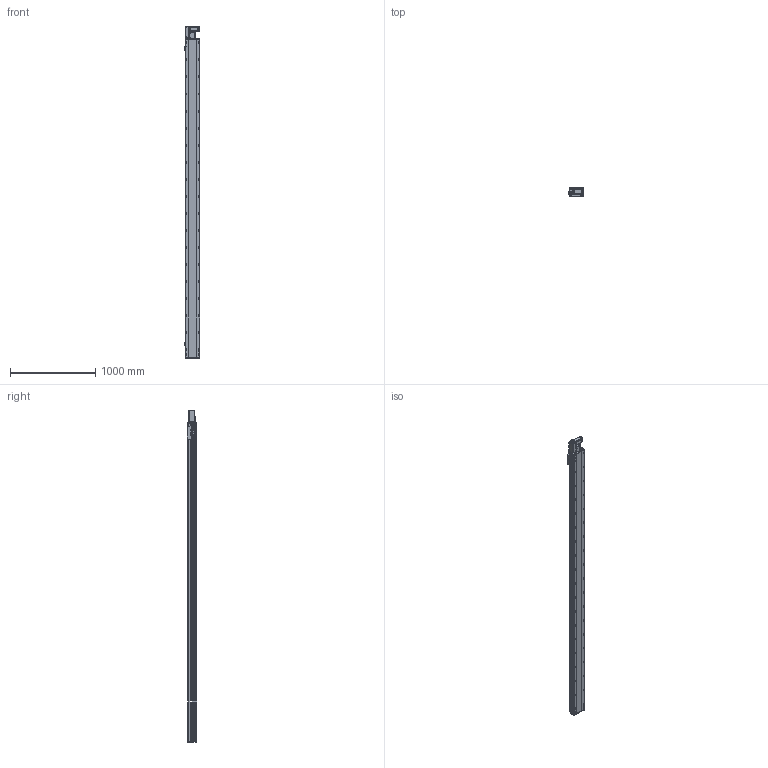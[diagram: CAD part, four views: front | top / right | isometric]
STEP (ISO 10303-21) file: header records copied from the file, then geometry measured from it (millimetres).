
FILE_DESCRIPTION (( 'STEP AP214' ), '1' );
FILE_NAME ('RTB17S-XX-3450-L-M40-C4.STEP', '2025-12-11T06:08:29', ( '' ), ( '' ), 'SwSTEP 2.0', 'SolidWorks 2018', '' );
FILE_SCHEMA (( 'AUTOMOTIVE_DESIGN' ));
Length unit declared in the file: millimetre
Products named in the file (14): OMRON EE-SX672 传感器^RTB17S-XX-XX-L-M40-C4; RTB17S-L-々湍釱蚾饜-400W^RTB17S-XX-XX-L-M40-C4; RTB17S-XX-3450-L-M40-C4; RMP17S-L-014-T20--々湍釱^RTB17S-L-々湍釱蚾饜-400W_RTB17S-XX-XX-L-M40-C4; RTB17S-L-004佪裝蹟譫蟀諉釱^RTB17S-XX-XX-L-M40-C4; RTB17S-L-007奻裔^RTB17S-XX-XX-L-M40-C4; RTB17-R-011菁釱^RTB17S-XX-XX-L-M40-C4; RTB17S-L-001耜醱啣^RTB17S-XX-XX-L-M40-C4; RTB14-L-005P--轴承塑胶压盖^RTB17S-L-皮带座装配-400W_RTB17S-XX-XX-L-M40-C4; 400W侜督萇儂^RTB17S-XX-XX-L-M40-C4; RTB14-L-008-M20--萇儂啣^RTB17S-L-々湍釱蚾饜-400W_RTB17S-XX-XX-L-M40-C4; RTB14-L-018P^RTB17S-L-々湍釱蚾饜-400W_RTB17S-XX-XX-L-M40-C4; RTB14-L-017P^RTB17S-L-々湍釱蚾饜-400W_RTB17S-XX-XX-L-M40-C4; RTH13-BL-012覜茼え俋离^RTB17S-XX-XX-L-M40-C4
Assembly tree (16 placements, depth 3):
  RTB17S-XX-3450-L-M40-C4
    RTB17-R-011菁釱^RTB17S-XX-XX-L-M40-C4
    RTB17S-L-007奻裔^RTB17S-XX-XX-L-M40-C4
    OMRON EE-SX672 传感器^RTB17S-XX-XX-L-M40-C4  x3
    RTB17S-L-001耜醱啣^RTB17S-XX-XX-L-M40-C4
    400W侜督萇儂^RTB17S-XX-XX-L-M40-C4
    RTB17S-L-004佪裝蹟譫蟀諉釱^RTB17S-XX-XX-L-M40-C4
    RTH13-BL-012覜茼え俋离^RTB17S-XX-XX-L-M40-C4
    RTB17S-L-々湍釱蚾饜-400W^RTB17S-XX-XX-L-M40-C4
      RMP17S-L-014-T20--々湍釱^RTB17S-L-々湍釱蚾饜-400W_RTB17S-XX-XX-L-M40-C4
      RTB14-L-005P--轴承塑胶压盖^RTB17S-L-皮带座装配-400W_RTB17S-XX-XX-L-M40-C4
      RTB14-L-008-M20--萇儂啣^RTB17S-L-々湍釱蚾饜-400W_RTB17S-XX-XX-L-M40-C4
      RTB14-L-017P^RTB17S-L-々湍釱蚾饜-400W_RTB17S-XX-XX-L-M40-C4  x2
      RTB14-L-018P^RTB17S-L-々湍釱蚾饜-400W_RTB17S-XX-XX-L-M40-C4
Bounding box: 186 x 108 x 3891 mm (x, y, z)
Volume: 32348639.6 mm3; surface area: 3678627.4 mm2
Topology: 15 solids, 15 shells, 2413 faces, 6789 edges, 4437 vertices
Faces by surface type: plane 1094, cylinder 871, bspline 301, cone 139, torus 8
Entity records: 72617 total; most frequent: CARTESIAN_POINT 20794, ORIENTED_EDGE 10422, DIRECTION 9566, EDGE_CURVE 5211, VERTEX_POINT 3425, AXIS2_PLACEMENT_3D 3355, VECTOR 2856, LINE 2856
